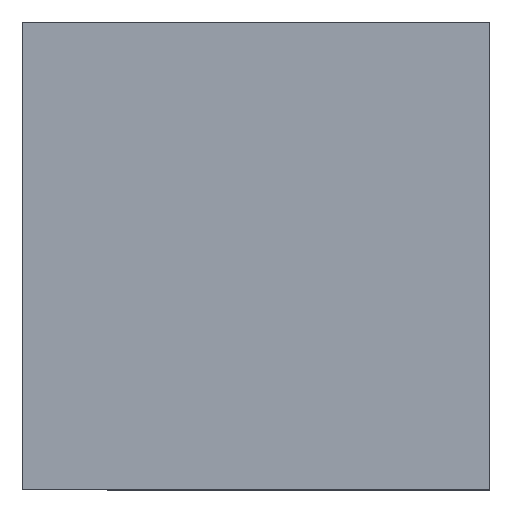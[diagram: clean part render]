
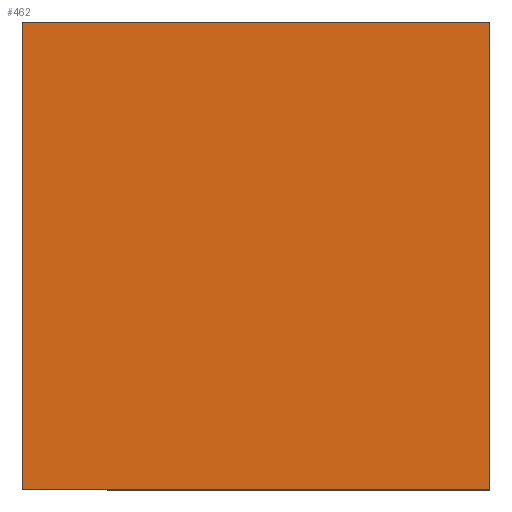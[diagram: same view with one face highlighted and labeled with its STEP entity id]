
A CAD part, top view. The second image highlights one B-rep face of the part: STEP entity #462.
In plain terms, the highlighted planar face has unit normal (0, 0, 1).
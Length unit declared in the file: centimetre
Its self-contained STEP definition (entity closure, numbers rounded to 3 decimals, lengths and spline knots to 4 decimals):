
#19 = ORIENTED_EDGE ( 'NONE', *, *, #157, .T. ) ;
#22 = LINE ( 'NONE', #486, #415 ) ;
#31 = LINE ( 'NONE', #159, #395 ) ;
#46 = CARTESIAN_POINT ( 'NONE',  ( 0., 0., 1000. ) ) ;
#48 = CARTESIAN_POINT ( 'NONE',  ( 0., 1000., 1000. ) ) ;
#53 = VERTEX_POINT ( 'NONE', #64 ) ;
#64 = CARTESIAN_POINT ( 'NONE',  ( 1000., 0., 1000. ) ) ;
#71 = LINE ( 'NONE', #500, #264 ) ;
#134 = DIRECTION ( 'NONE',  ( 0., 0., 1. ) ) ;
#140 = EDGE_CURVE ( 'NONE', #198, #53, #22, .T. ) ;
#141 = AXIS2_PLACEMENT_3D ( 'NONE', #46, #134, #561 ) ;
#142 = ORIENTED_EDGE ( 'NONE', *, *, #353, .T. ) ;
#152 = EDGE_LOOP ( 'NONE', ( #142, #435, #19, #381 ) ) ;
#157 = EDGE_CURVE ( 'NONE', #53, #298, #31, .T. ) ;
#159 = CARTESIAN_POINT ( 'NONE',  ( 1000., 1000., 1000. ) ) ;
#171 = CARTESIAN_POINT ( 'NONE',  ( 0., 0., 1000. ) ) ;
#186 = PLANE ( 'NONE',  #141 ) ;
#198 = VERTEX_POINT ( 'NONE', #171 ) ;
#235 = EDGE_CURVE ( 'NONE', #298, #521, #590, .T. ) ;
#264 = VECTOR ( 'NONE', #488, 100. ) ;
#268 = DIRECTION ( 'NONE',  ( 0., 1., 0. ) ) ;
#298 = VERTEX_POINT ( 'NONE', #449 ) ;
#352 = CARTESIAN_POINT ( 'NONE',  ( 0., 1000., 1000. ) ) ;
#353 = EDGE_CURVE ( 'NONE', #521, #198, #71, .T. ) ;
#381 = ORIENTED_EDGE ( 'NONE', *, *, #235, .T. ) ;
#395 = VECTOR ( 'NONE', #268, 100. ) ;
#401 = DIRECTION ( 'NONE',  ( 1., 0., 0. ) ) ;
#415 = VECTOR ( 'NONE', #401, 100. ) ;
#435 = ORIENTED_EDGE ( 'NONE', *, *, #140, .T. ) ;
#449 = CARTESIAN_POINT ( 'NONE',  ( 1000., 1000., 1000. ) ) ;
#462 = ADVANCED_FACE ( 'NONE', ( #507 ), #186, .T. ) ;
#486 = CARTESIAN_POINT ( 'NONE',  ( 0., 0., 1000. ) ) ;
#488 = DIRECTION ( 'NONE',  ( 0., -1., 0. ) ) ;
#500 = CARTESIAN_POINT ( 'NONE',  ( 0., 1000., 1000. ) ) ;
#507 = FACE_OUTER_BOUND ( 'NONE', #152, .T. ) ;
#521 = VERTEX_POINT ( 'NONE', #48 ) ;
#536 = DIRECTION ( 'NONE',  ( -1., 0., 0. ) ) ;
#548 = VECTOR ( 'NONE', #536, 100. ) ;
#561 = DIRECTION ( 'NONE',  ( 1., 0., 0. ) ) ;
#590 = LINE ( 'NONE', #352, #548 ) ;
